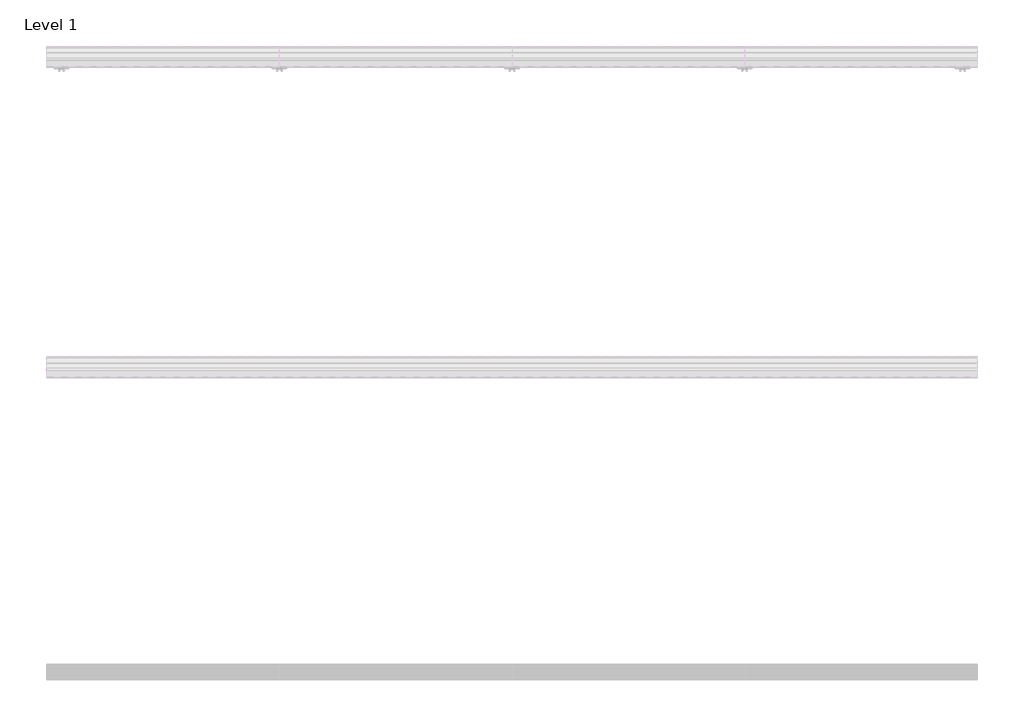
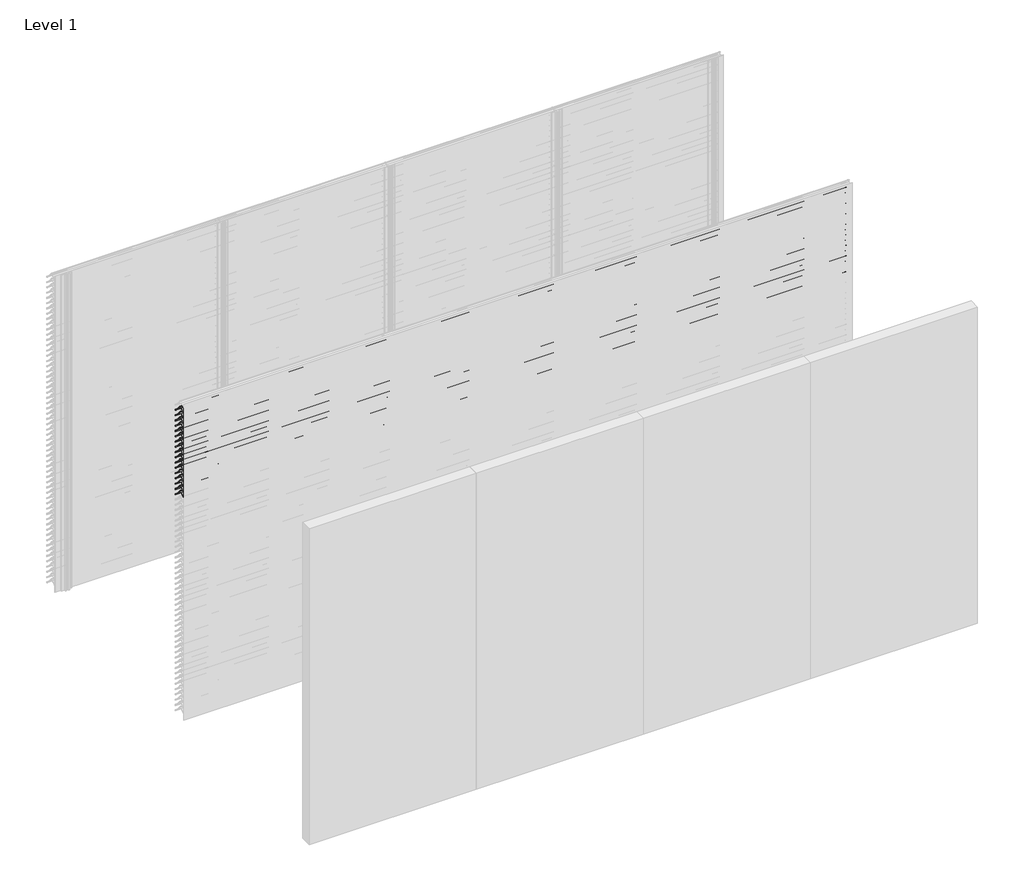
# One storey, part 3 of 173: 17 proxies.
"""IFC4 building model written with IfcOpenShell, lengths in millimetres."""

from ifc_helpers import new_model, si_unit, point, frame, frame_2d, origin, place, context, project, spatial, polyline, circle_curve, trimmed, segment, composite_curve, outline, extrude, element, save

model = new_model("IFC4")

# Units and contexts
model_context = context("Model", 3, world=origin())
ifc_project = project(units=[si_unit("LENGTHUNIT", "METRE", prefix="MILLI")], contexts=[model_context])

# Site, building, storey
site = spatial("IfcSite", under=ifc_project)
building = spatial("IfcBuilding", under=site)
storey = spatial("IfcBuildingStorey", under=building, Name="Level 1", Elevation=0.0)

# Proxies
placement = place(None, origin())
element("IfcBuildingElementProxy", 1, Name="Wall Sweeps", at=placement, inside=storey, context=model_context, shape_type="SweptSolid", body=[
    extrude(outline(composite_curve([segment(polyline([(-55998.0, 2909.1474905), (-55998.0, 2911.6227417)]), True, "CONTINUOUS"), segment(trimmed(circle_curve(frame_2d((-55951.2682172, 2866.2200208)), 65.1557103), [point((-55998.0, 2911.6227417))], [point((-55954.4014323, 2931.3003524))], False, "CARTESIAN"), True, "CONTINUOUS"), segment(polyline([(-55954.4014323, 2931.3003524), (-55934.8315836, 2931.3003524)]), True, "CONTINUOUS"), segment(trimmed(circle_curve(frame_2d((-55732.7329489, 3078.5533172)), 250.0545817), [point((-55934.8315836, 2931.3003524))], [point((-55941.4452143, 2940.8344583))], False, "CARTESIAN"), True, "CONTINUOUS"), segment(trimmed(circle_curve(frame_2d((-55953.2981792, 2935.1737835)), 13.1352966), [point((-55941.4452143, 2940.8344583))], [point((-55953.8171475, 2948.298824))], True, "CARTESIAN"), True, "CONTINUOUS"), segment(polyline([(-55953.8171475, 2948.298824), (-55953.8171475, 2950.0)]), True, "CONTINUOUS"), segment(trimmed(circle_curve(frame_2d((-55953.2981792, 2935.1737835)), 14.8352966), [point((-55953.8171475, 2950.0))], [point((-55939.9637661, 2941.6760487))], False, "CARTESIAN"), True, "CONTINUOUS"), segment(trimmed(circle_curve(frame_2d((-55732.7329489, 3078.5533172)), 248.3545817), [point((-55939.9637661, 2941.6760487))], [point((-55873.8787895, 2874.2059416))], True, "CARTESIAN"), True, "CONTINUOUS"), segment(trimmed(circle_curve(frame_2d((-55883.8147537, 2861.6649442)), 16.0), [point((-55873.8787895, 2874.2059416))], [point((-55867.8648347, 2860.4))], False, "CARTESIAN"), True, "CONTINUOUS"), segment(polyline([(-55867.8648347, 2860.4), (-55869.6712069, 2860.4)]), True, "CONTINUOUS"), segment(trimmed(circle_curve(frame_2d((-55883.8147537, 2861.6649442)), 14.2), [point((-55869.6712069, 2860.4))], [point((-55874.9518628, 2872.7594998))], True, "CARTESIAN"), True, "CONTINUOUS"), segment(trimmed(circle_curve(frame_2d((-55732.7329489, 3078.5533172)), 250.1545817), [point((-55874.9518628, 2872.7594998))], [point((-55933.7064024, 2929.6003524))], False, "CARTESIAN"), True, "CONTINUOUS"), segment(polyline([(-55933.7064024, 2929.6003524), (-55954.3602632, 2929.6003524)]), True, "CONTINUOUS"), segment(trimmed(circle_curve(frame_2d((-55951.2682172, 2866.2200208)), 63.4557103), [point((-55954.3602632, 2929.6003524))], [point((-55998.0, 2909.1474905))], True, "CARTESIAN"), True, "CONTINUOUS")], self_intersect=False)), frame((0.0, 0.0, 0.0), z_axis=(1.0, 0.0, 0.0), x_axis=(0.0, 1.0, 0.0)), (0.0, 0.0, 1.0), 6000.0),
])
element("IfcBuildingElementProxy", 2, Name="Wall Sweeps", at=placement, inside=storey, context=model_context, shape_type="SweptSolid", body=[
    extrude(outline(composite_curve([segment(polyline([(-55998.0, 2859.1474905), (-55998.0, 2861.6227417)]), True, "CONTINUOUS"), segment(trimmed(circle_curve(frame_2d((-55951.2682172, 2816.2200208)), 65.1557103), [point((-55998.0, 2861.6227417))], [point((-55954.4014323, 2881.3003524))], False, "CARTESIAN"), True, "CONTINUOUS"), segment(polyline([(-55954.4014323, 2881.3003524), (-55934.8315836, 2881.3003524)]), True, "CONTINUOUS"), segment(trimmed(circle_curve(frame_2d((-55732.7329489, 3028.5533172)), 250.0545817), [point((-55934.8315836, 2881.3003524))], [point((-55941.4452143, 2890.8344583))], False, "CARTESIAN"), True, "CONTINUOUS"), segment(trimmed(circle_curve(frame_2d((-55953.2981792, 2885.1737835)), 13.1352966), [point((-55941.4452143, 2890.8344583))], [point((-55953.8171475, 2898.298824))], True, "CARTESIAN"), True, "CONTINUOUS"), segment(polyline([(-55953.8171475, 2898.298824), (-55953.8171475, 2900.0)]), True, "CONTINUOUS"), segment(trimmed(circle_curve(frame_2d((-55953.2981792, 2885.1737835)), 14.8352966), [point((-55953.8171475, 2900.0))], [point((-55939.9637661, 2891.6760487))], False, "CARTESIAN"), True, "CONTINUOUS"), segment(trimmed(circle_curve(frame_2d((-55732.7329489, 3028.5533172)), 248.3545817), [point((-55939.9637661, 2891.6760487))], [point((-55873.8787895, 2824.2059416))], True, "CARTESIAN"), True, "CONTINUOUS"), segment(trimmed(circle_curve(frame_2d((-55883.8147537, 2811.6649442)), 16.0), [point((-55873.8787895, 2824.2059416))], [point((-55867.8648347, 2810.4))], False, "CARTESIAN"), True, "CONTINUOUS"), segment(polyline([(-55867.8648347, 2810.4), (-55869.6712069, 2810.4)]), True, "CONTINUOUS"), segment(trimmed(circle_curve(frame_2d((-55883.8147537, 2811.6649442)), 14.2), [point((-55869.6712069, 2810.4))], [point((-55874.9518628, 2822.7594998))], True, "CARTESIAN"), True, "CONTINUOUS"), segment(trimmed(circle_curve(frame_2d((-55732.7329489, 3028.5533172)), 250.1545817), [point((-55874.9518628, 2822.7594998))], [point((-55933.7064024, 2879.6003524))], False, "CARTESIAN"), True, "CONTINUOUS"), segment(polyline([(-55933.7064024, 2879.6003524), (-55954.3602632, 2879.6003524)]), True, "CONTINUOUS"), segment(trimmed(circle_curve(frame_2d((-55951.2682172, 2816.2200208)), 63.4557103), [point((-55954.3602632, 2879.6003524))], [point((-55998.0, 2859.1474905))], True, "CARTESIAN"), True, "CONTINUOUS")], self_intersect=False)), frame((0.0, 0.0, 0.0), z_axis=(1.0, 0.0, 0.0), x_axis=(0.0, 1.0, 0.0)), (0.0, 0.0, 1.0), 6000.0),
])
element("IfcBuildingElementProxy", 3, Name="Wall Sweeps", at=placement, inside=storey, context=model_context, shape_type="SweptSolid", body=[
    extrude(outline(composite_curve([segment(polyline([(-55998.0, 2809.1474905), (-55998.0, 2811.6227417)]), True, "CONTINUOUS"), segment(trimmed(circle_curve(frame_2d((-55951.2682172, 2766.2200208)), 65.1557103), [point((-55998.0, 2811.6227417))], [point((-55954.4014323, 2831.3003524))], False, "CARTESIAN"), True, "CONTINUOUS"), segment(polyline([(-55954.4014323, 2831.3003524), (-55934.8315836, 2831.3003524)]), True, "CONTINUOUS"), segment(trimmed(circle_curve(frame_2d((-55732.7329489, 2978.5533172)), 250.0545817), [point((-55934.8315836, 2831.3003524))], [point((-55941.4452143, 2840.8344583))], False, "CARTESIAN"), True, "CONTINUOUS"), segment(trimmed(circle_curve(frame_2d((-55953.2981792, 2835.1737835)), 13.1352966), [point((-55941.4452143, 2840.8344583))], [point((-55953.8171475, 2848.298824))], True, "CARTESIAN"), True, "CONTINUOUS"), segment(polyline([(-55953.8171475, 2848.298824), (-55953.8171475, 2850.0)]), True, "CONTINUOUS"), segment(trimmed(circle_curve(frame_2d((-55953.2981792, 2835.1737835)), 14.8352966), [point((-55953.8171475, 2850.0))], [point((-55939.9637661, 2841.6760487))], False, "CARTESIAN"), True, "CONTINUOUS"), segment(trimmed(circle_curve(frame_2d((-55732.7329489, 2978.5533172)), 248.3545817), [point((-55939.9637661, 2841.6760487))], [point((-55873.8787895, 2774.2059416))], True, "CARTESIAN"), True, "CONTINUOUS"), segment(trimmed(circle_curve(frame_2d((-55883.8147537, 2761.6649442)), 16.0), [point((-55873.8787895, 2774.2059416))], [point((-55867.8648347, 2760.4))], False, "CARTESIAN"), True, "CONTINUOUS"), segment(polyline([(-55867.8648347, 2760.4), (-55869.6712069, 2760.4)]), True, "CONTINUOUS"), segment(trimmed(circle_curve(frame_2d((-55883.8147537, 2761.6649442)), 14.2), [point((-55869.6712069, 2760.4))], [point((-55874.9518628, 2772.7594998))], True, "CARTESIAN"), True, "CONTINUOUS"), segment(trimmed(circle_curve(frame_2d((-55732.7329489, 2978.5533172)), 250.1545817), [point((-55874.9518628, 2772.7594998))], [point((-55933.7064024, 2829.6003524))], False, "CARTESIAN"), True, "CONTINUOUS"), segment(polyline([(-55933.7064024, 2829.6003524), (-55954.3602632, 2829.6003524)]), True, "CONTINUOUS"), segment(trimmed(circle_curve(frame_2d((-55951.2682172, 2766.2200208)), 63.4557103), [point((-55954.3602632, 2829.6003524))], [point((-55998.0, 2809.1474905))], True, "CARTESIAN"), True, "CONTINUOUS")], self_intersect=False)), frame((0.0, 0.0, 0.0), z_axis=(1.0, 0.0, 0.0), x_axis=(0.0, 1.0, 0.0)), (0.0, 0.0, 1.0), 6000.0),
])
element("IfcBuildingElementProxy", 4, Name="Wall Sweeps", at=placement, inside=storey, context=model_context, shape_type="SweptSolid", body=[
    extrude(outline(composite_curve([segment(polyline([(-55998.0, 2759.1474905), (-55998.0, 2761.6227417)]), True, "CONTINUOUS"), segment(trimmed(circle_curve(frame_2d((-55951.2682172, 2716.2200208)), 65.1557103), [point((-55998.0, 2761.6227417))], [point((-55954.4014323, 2781.3003524))], False, "CARTESIAN"), True, "CONTINUOUS"), segment(polyline([(-55954.4014323, 2781.3003524), (-55934.8315836, 2781.3003524)]), True, "CONTINUOUS"), segment(trimmed(circle_curve(frame_2d((-55732.7329489, 2928.5533172)), 250.0545817), [point((-55934.8315836, 2781.3003524))], [point((-55941.4452143, 2790.8344583))], False, "CARTESIAN"), True, "CONTINUOUS"), segment(trimmed(circle_curve(frame_2d((-55953.2981792, 2785.1737835)), 13.1352966), [point((-55941.4452143, 2790.8344583))], [point((-55953.8171475, 2798.298824))], True, "CARTESIAN"), True, "CONTINUOUS"), segment(polyline([(-55953.8171475, 2798.298824), (-55953.8171475, 2800.0)]), True, "CONTINUOUS"), segment(trimmed(circle_curve(frame_2d((-55953.2981792, 2785.1737835)), 14.8352966), [point((-55953.8171475, 2800.0))], [point((-55939.9637661, 2791.6760487))], False, "CARTESIAN"), True, "CONTINUOUS"), segment(trimmed(circle_curve(frame_2d((-55732.7329489, 2928.5533172)), 248.3545817), [point((-55939.9637661, 2791.6760487))], [point((-55873.8787895, 2724.2059416))], True, "CARTESIAN"), True, "CONTINUOUS"), segment(trimmed(circle_curve(frame_2d((-55883.8147537, 2711.6649442)), 16.0), [point((-55873.8787895, 2724.2059416))], [point((-55867.8648347, 2710.4))], False, "CARTESIAN"), True, "CONTINUOUS"), segment(polyline([(-55867.8648347, 2710.4), (-55869.6712069, 2710.4)]), True, "CONTINUOUS"), segment(trimmed(circle_curve(frame_2d((-55883.8147537, 2711.6649442)), 14.2), [point((-55869.6712069, 2710.4))], [point((-55874.9518628, 2722.7594998))], True, "CARTESIAN"), True, "CONTINUOUS"), segment(trimmed(circle_curve(frame_2d((-55732.7329489, 2928.5533172)), 250.1545817), [point((-55874.9518628, 2722.7594998))], [point((-55933.7064024, 2779.6003524))], False, "CARTESIAN"), True, "CONTINUOUS"), segment(polyline([(-55933.7064024, 2779.6003524), (-55954.3602632, 2779.6003524)]), True, "CONTINUOUS"), segment(trimmed(circle_curve(frame_2d((-55951.2682172, 2716.2200208)), 63.4557103), [point((-55954.3602632, 2779.6003524))], [point((-55998.0, 2759.1474905))], True, "CARTESIAN"), True, "CONTINUOUS")], self_intersect=False)), frame((0.0, 0.0, 0.0), z_axis=(1.0, 0.0, 0.0), x_axis=(0.0, 1.0, 0.0)), (0.0, 0.0, 1.0), 6000.0),
])
element("IfcBuildingElementProxy", 5, Name="Wall Sweeps", at=placement, inside=storey, context=model_context, shape_type="SweptSolid", body=[
    extrude(outline(composite_curve([segment(polyline([(-55998.0, 2709.1474905), (-55998.0, 2711.6227417)]), True, "CONTINUOUS"), segment(trimmed(circle_curve(frame_2d((-55951.2682172, 2666.2200208)), 65.1557103), [point((-55998.0, 2711.6227417))], [point((-55954.4014323, 2731.3003524))], False, "CARTESIAN"), True, "CONTINUOUS"), segment(polyline([(-55954.4014323, 2731.3003524), (-55934.8315836, 2731.3003524)]), True, "CONTINUOUS"), segment(trimmed(circle_curve(frame_2d((-55732.7329489, 2878.5533172)), 250.0545817), [point((-55934.8315836, 2731.3003524))], [point((-55941.4452143, 2740.8344583))], False, "CARTESIAN"), True, "CONTINUOUS"), segment(trimmed(circle_curve(frame_2d((-55953.2981792, 2735.1737835)), 13.1352966), [point((-55941.4452143, 2740.8344583))], [point((-55953.8171475, 2748.298824))], True, "CARTESIAN"), True, "CONTINUOUS"), segment(polyline([(-55953.8171475, 2748.298824), (-55953.8171475, 2750.0)]), True, "CONTINUOUS"), segment(trimmed(circle_curve(frame_2d((-55953.2981792, 2735.1737835)), 14.8352966), [point((-55953.8171475, 2750.0))], [point((-55939.9637661, 2741.6760487))], False, "CARTESIAN"), True, "CONTINUOUS"), segment(trimmed(circle_curve(frame_2d((-55732.7329489, 2878.5533172)), 248.3545817), [point((-55939.9637661, 2741.6760487))], [point((-55873.8787895, 2674.2059416))], True, "CARTESIAN"), True, "CONTINUOUS"), segment(trimmed(circle_curve(frame_2d((-55883.8147537, 2661.6649442)), 16.0), [point((-55873.8787895, 2674.2059416))], [point((-55867.8648347, 2660.4))], False, "CARTESIAN"), True, "CONTINUOUS"), segment(polyline([(-55867.8648347, 2660.4), (-55869.6712069, 2660.4)]), True, "CONTINUOUS"), segment(trimmed(circle_curve(frame_2d((-55883.8147537, 2661.6649442)), 14.2), [point((-55869.6712069, 2660.4))], [point((-55874.9518628, 2672.7594998))], True, "CARTESIAN"), True, "CONTINUOUS"), segment(trimmed(circle_curve(frame_2d((-55732.7329489, 2878.5533172)), 250.1545817), [point((-55874.9518628, 2672.7594998))], [point((-55933.7064024, 2729.6003524))], False, "CARTESIAN"), True, "CONTINUOUS"), segment(polyline([(-55933.7064024, 2729.6003524), (-55954.3602632, 2729.6003524)]), True, "CONTINUOUS"), segment(trimmed(circle_curve(frame_2d((-55951.2682172, 2666.2200208)), 63.4557103), [point((-55954.3602632, 2729.6003524))], [point((-55998.0, 2709.1474905))], True, "CARTESIAN"), True, "CONTINUOUS")], self_intersect=False)), frame((0.0, 0.0, 0.0), z_axis=(1.0, 0.0, 0.0), x_axis=(0.0, 1.0, 0.0)), (0.0, 0.0, 1.0), 6000.0),
])
element("IfcBuildingElementProxy", 6, Name="Wall Sweeps", at=placement, inside=storey, context=model_context, shape_type="SweptSolid", body=[
    extrude(outline(composite_curve([segment(polyline([(-55998.0, 2659.1474905), (-55998.0, 2661.6227417)]), True, "CONTINUOUS"), segment(trimmed(circle_curve(frame_2d((-55951.2682172, 2616.2200208)), 65.1557103), [point((-55998.0, 2661.6227417))], [point((-55954.4014323, 2681.3003524))], False, "CARTESIAN"), True, "CONTINUOUS"), segment(polyline([(-55954.4014323, 2681.3003524), (-55934.8315836, 2681.3003524)]), True, "CONTINUOUS"), segment(trimmed(circle_curve(frame_2d((-55732.7329489, 2828.5533172)), 250.0545817), [point((-55934.8315836, 2681.3003524))], [point((-55941.4452143, 2690.8344583))], False, "CARTESIAN"), True, "CONTINUOUS"), segment(trimmed(circle_curve(frame_2d((-55953.2981792, 2685.1737835)), 13.1352966), [point((-55941.4452143, 2690.8344583))], [point((-55953.8171475, 2698.298824))], True, "CARTESIAN"), True, "CONTINUOUS"), segment(polyline([(-55953.8171475, 2698.298824), (-55953.8171475, 2700.0)]), True, "CONTINUOUS"), segment(trimmed(circle_curve(frame_2d((-55953.2981792, 2685.1737835)), 14.8352966), [point((-55953.8171475, 2700.0))], [point((-55939.9637661, 2691.6760487))], False, "CARTESIAN"), True, "CONTINUOUS"), segment(trimmed(circle_curve(frame_2d((-55732.7329489, 2828.5533172)), 248.3545817), [point((-55939.9637661, 2691.6760487))], [point((-55873.8787895, 2624.2059416))], True, "CARTESIAN"), True, "CONTINUOUS"), segment(trimmed(circle_curve(frame_2d((-55883.8147537, 2611.6649442)), 16.0), [point((-55873.8787895, 2624.2059416))], [point((-55867.8648347, 2610.4))], False, "CARTESIAN"), True, "CONTINUOUS"), segment(polyline([(-55867.8648347, 2610.4), (-55869.6712069, 2610.4)]), True, "CONTINUOUS"), segment(trimmed(circle_curve(frame_2d((-55883.8147537, 2611.6649442)), 14.2), [point((-55869.6712069, 2610.4))], [point((-55874.9518628, 2622.7594998))], True, "CARTESIAN"), True, "CONTINUOUS"), segment(trimmed(circle_curve(frame_2d((-55732.7329489, 2828.5533172)), 250.1545817), [point((-55874.9518628, 2622.7594998))], [point((-55933.7064024, 2679.6003524))], False, "CARTESIAN"), True, "CONTINUOUS"), segment(polyline([(-55933.7064024, 2679.6003524), (-55954.3602632, 2679.6003524)]), True, "CONTINUOUS"), segment(trimmed(circle_curve(frame_2d((-55951.2682172, 2616.2200208)), 63.4557103), [point((-55954.3602632, 2679.6003524))], [point((-55998.0, 2659.1474905))], True, "CARTESIAN"), True, "CONTINUOUS")], self_intersect=False)), frame((0.0, 0.0, 0.0), z_axis=(1.0, 0.0, 0.0), x_axis=(0.0, 1.0, 0.0)), (0.0, 0.0, 1.0), 6000.0),
])
element("IfcBuildingElementProxy", 7, Name="Wall Sweeps", at=placement, inside=storey, context=model_context, shape_type="SweptSolid", body=[
    extrude(outline(composite_curve([segment(polyline([(-55998.0, 2609.1474905), (-55998.0, 2611.6227417)]), True, "CONTINUOUS"), segment(trimmed(circle_curve(frame_2d((-55951.2682172, 2566.2200208)), 65.1557103), [point((-55998.0, 2611.6227417))], [point((-55954.4014323, 2631.3003524))], False, "CARTESIAN"), True, "CONTINUOUS"), segment(polyline([(-55954.4014323, 2631.3003524), (-55934.8315836, 2631.3003524)]), True, "CONTINUOUS"), segment(trimmed(circle_curve(frame_2d((-55732.7329489, 2778.5533172)), 250.0545817), [point((-55934.8315836, 2631.3003524))], [point((-55941.4452143, 2640.8344583))], False, "CARTESIAN"), True, "CONTINUOUS"), segment(trimmed(circle_curve(frame_2d((-55953.2981792, 2635.1737835)), 13.1352966), [point((-55941.4452143, 2640.8344583))], [point((-55953.8171475, 2648.298824))], True, "CARTESIAN"), True, "CONTINUOUS"), segment(polyline([(-55953.8171475, 2648.298824), (-55953.8171475, 2650.0)]), True, "CONTINUOUS"), segment(trimmed(circle_curve(frame_2d((-55953.2981792, 2635.1737835)), 14.8352966), [point((-55953.8171475, 2650.0))], [point((-55939.9637661, 2641.6760487))], False, "CARTESIAN"), True, "CONTINUOUS"), segment(trimmed(circle_curve(frame_2d((-55732.7329489, 2778.5533172)), 248.3545817), [point((-55939.9637661, 2641.6760487))], [point((-55873.8787895, 2574.2059416))], True, "CARTESIAN"), True, "CONTINUOUS"), segment(trimmed(circle_curve(frame_2d((-55883.8147537, 2561.6649442)), 16.0), [point((-55873.8787895, 2574.2059416))], [point((-55867.8648347, 2560.4))], False, "CARTESIAN"), True, "CONTINUOUS"), segment(polyline([(-55867.8648347, 2560.4), (-55869.6712069, 2560.4)]), True, "CONTINUOUS"), segment(trimmed(circle_curve(frame_2d((-55883.8147537, 2561.6649442)), 14.2), [point((-55869.6712069, 2560.4))], [point((-55874.9518628, 2572.7594998))], True, "CARTESIAN"), True, "CONTINUOUS"), segment(trimmed(circle_curve(frame_2d((-55732.7329489, 2778.5533172)), 250.1545817), [point((-55874.9518628, 2572.7594998))], [point((-55933.7064024, 2629.6003524))], False, "CARTESIAN"), True, "CONTINUOUS"), segment(polyline([(-55933.7064024, 2629.6003524), (-55954.3602632, 2629.6003524)]), True, "CONTINUOUS"), segment(trimmed(circle_curve(frame_2d((-55951.2682172, 2566.2200208)), 63.4557103), [point((-55954.3602632, 2629.6003524))], [point((-55998.0, 2609.1474905))], True, "CARTESIAN"), True, "CONTINUOUS")], self_intersect=False)), frame((0.0, 0.0, 0.0), z_axis=(1.0, 0.0, 0.0), x_axis=(0.0, 1.0, 0.0)), (0.0, 0.0, 1.0), 6000.0),
])
element("IfcBuildingElementProxy", 8, Name="Wall Sweeps", at=placement, inside=storey, context=model_context, shape_type="SweptSolid", body=[
    extrude(outline(composite_curve([segment(polyline([(-55998.0, 2559.1474905), (-55998.0, 2561.6227417)]), True, "CONTINUOUS"), segment(trimmed(circle_curve(frame_2d((-55951.2682172, 2516.2200208)), 65.1557103), [point((-55998.0, 2561.6227417))], [point((-55954.4014323, 2581.3003524))], False, "CARTESIAN"), True, "CONTINUOUS"), segment(polyline([(-55954.4014323, 2581.3003524), (-55934.8315836, 2581.3003524)]), True, "CONTINUOUS"), segment(trimmed(circle_curve(frame_2d((-55732.7329489, 2728.5533172)), 250.0545817), [point((-55934.8315836, 2581.3003524))], [point((-55941.4452143, 2590.8344583))], False, "CARTESIAN"), True, "CONTINUOUS"), segment(trimmed(circle_curve(frame_2d((-55953.2981792, 2585.1737835)), 13.1352966), [point((-55941.4452143, 2590.8344583))], [point((-55953.8171475, 2598.298824))], True, "CARTESIAN"), True, "CONTINUOUS"), segment(polyline([(-55953.8171475, 2598.298824), (-55953.8171475, 2600.0)]), True, "CONTINUOUS"), segment(trimmed(circle_curve(frame_2d((-55953.2981792, 2585.1737835)), 14.8352966), [point((-55953.8171475, 2600.0))], [point((-55939.9637661, 2591.6760487))], False, "CARTESIAN"), True, "CONTINUOUS"), segment(trimmed(circle_curve(frame_2d((-55732.7329489, 2728.5533172)), 248.3545817), [point((-55939.9637661, 2591.6760487))], [point((-55873.8787895, 2524.2059416))], True, "CARTESIAN"), True, "CONTINUOUS"), segment(trimmed(circle_curve(frame_2d((-55883.8147537, 2511.6649442)), 16.0), [point((-55873.8787895, 2524.2059416))], [point((-55867.8648347, 2510.4))], False, "CARTESIAN"), True, "CONTINUOUS"), segment(polyline([(-55867.8648347, 2510.4), (-55869.6712069, 2510.4)]), True, "CONTINUOUS"), segment(trimmed(circle_curve(frame_2d((-55883.8147537, 2511.6649442)), 14.2), [point((-55869.6712069, 2510.4))], [point((-55874.9518628, 2522.7594998))], True, "CARTESIAN"), True, "CONTINUOUS"), segment(trimmed(circle_curve(frame_2d((-55732.7329489, 2728.5533172)), 250.1545817), [point((-55874.9518628, 2522.7594998))], [point((-55933.7064024, 2579.6003524))], False, "CARTESIAN"), True, "CONTINUOUS"), segment(polyline([(-55933.7064024, 2579.6003524), (-55954.3602632, 2579.6003524)]), True, "CONTINUOUS"), segment(trimmed(circle_curve(frame_2d((-55951.2682172, 2516.2200208)), 63.4557103), [point((-55954.3602632, 2579.6003524))], [point((-55998.0, 2559.1474905))], True, "CARTESIAN"), True, "CONTINUOUS")], self_intersect=False)), frame((0.0, 0.0, 0.0), z_axis=(1.0, 0.0, 0.0), x_axis=(0.0, 1.0, 0.0)), (0.0, 0.0, 1.0), 6000.0),
])
element("IfcBuildingElementProxy", 9, Name="Wall Sweeps", at=placement, inside=storey, context=model_context, shape_type="SweptSolid", body=[
    extrude(outline(composite_curve([segment(polyline([(-55998.0, 2509.1474905), (-55998.0, 2511.6227417)]), True, "CONTINUOUS"), segment(trimmed(circle_curve(frame_2d((-55951.2682172, 2466.2200208)), 65.1557103), [point((-55998.0, 2511.6227417))], [point((-55954.4014323, 2531.3003524))], False, "CARTESIAN"), True, "CONTINUOUS"), segment(polyline([(-55954.4014323, 2531.3003524), (-55934.8315836, 2531.3003524)]), True, "CONTINUOUS"), segment(trimmed(circle_curve(frame_2d((-55732.7329489, 2678.5533172)), 250.0545817), [point((-55934.8315836, 2531.3003524))], [point((-55941.4452143, 2540.8344583))], False, "CARTESIAN"), True, "CONTINUOUS"), segment(trimmed(circle_curve(frame_2d((-55953.2981792, 2535.1737835)), 13.1352966), [point((-55941.4452143, 2540.8344583))], [point((-55953.8171475, 2548.298824))], True, "CARTESIAN"), True, "CONTINUOUS"), segment(polyline([(-55953.8171475, 2548.298824), (-55953.8171475, 2550.0)]), True, "CONTINUOUS"), segment(trimmed(circle_curve(frame_2d((-55953.2981792, 2535.1737835)), 14.8352966), [point((-55953.8171475, 2550.0))], [point((-55939.9637661, 2541.6760487))], False, "CARTESIAN"), True, "CONTINUOUS"), segment(trimmed(circle_curve(frame_2d((-55732.7329489, 2678.5533172)), 248.3545817), [point((-55939.9637661, 2541.6760487))], [point((-55873.8787895, 2474.2059416))], True, "CARTESIAN"), True, "CONTINUOUS"), segment(trimmed(circle_curve(frame_2d((-55883.8147537, 2461.6649442)), 16.0), [point((-55873.8787895, 2474.2059416))], [point((-55867.8648347, 2460.4))], False, "CARTESIAN"), True, "CONTINUOUS"), segment(polyline([(-55867.8648347, 2460.4), (-55869.6712069, 2460.4)]), True, "CONTINUOUS"), segment(trimmed(circle_curve(frame_2d((-55883.8147537, 2461.6649442)), 14.2), [point((-55869.6712069, 2460.4))], [point((-55874.9518628, 2472.7594998))], True, "CARTESIAN"), True, "CONTINUOUS"), segment(trimmed(circle_curve(frame_2d((-55732.7329489, 2678.5533172)), 250.1545817), [point((-55874.9518628, 2472.7594998))], [point((-55933.7064024, 2529.6003524))], False, "CARTESIAN"), True, "CONTINUOUS"), segment(polyline([(-55933.7064024, 2529.6003524), (-55954.3602632, 2529.6003524)]), True, "CONTINUOUS"), segment(trimmed(circle_curve(frame_2d((-55951.2682172, 2466.2200208)), 63.4557103), [point((-55954.3602632, 2529.6003524))], [point((-55998.0, 2509.1474905))], True, "CARTESIAN"), True, "CONTINUOUS")], self_intersect=False)), frame((0.0, 0.0, 0.0), z_axis=(1.0, 0.0, 0.0), x_axis=(0.0, 1.0, 0.0)), (0.0, 0.0, 1.0), 6000.0),
])
element("IfcBuildingElementProxy", 10, Name="Wall Sweeps", at=placement, inside=storey, context=model_context, shape_type="SweptSolid", body=[
    extrude(outline(composite_curve([segment(polyline([(-55998.0, 2459.1474905), (-55998.0, 2461.6227417)]), True, "CONTINUOUS"), segment(trimmed(circle_curve(frame_2d((-55951.2682172, 2416.2200208)), 65.1557103), [point((-55998.0, 2461.6227417))], [point((-55954.4014323, 2481.3003524))], False, "CARTESIAN"), True, "CONTINUOUS"), segment(polyline([(-55954.4014323, 2481.3003524), (-55934.8315836, 2481.3003524)]), True, "CONTINUOUS"), segment(trimmed(circle_curve(frame_2d((-55732.7329489, 2628.5533172)), 250.0545817), [point((-55934.8315836, 2481.3003524))], [point((-55941.4452143, 2490.8344583))], False, "CARTESIAN"), True, "CONTINUOUS"), segment(trimmed(circle_curve(frame_2d((-55953.2981792, 2485.1737835)), 13.1352966), [point((-55941.4452143, 2490.8344583))], [point((-55953.8171475, 2498.298824))], True, "CARTESIAN"), True, "CONTINUOUS"), segment(polyline([(-55953.8171475, 2498.298824), (-55953.8171475, 2500.0)]), True, "CONTINUOUS"), segment(trimmed(circle_curve(frame_2d((-55953.2981792, 2485.1737835)), 14.8352966), [point((-55953.8171475, 2500.0))], [point((-55939.9637661, 2491.6760487))], False, "CARTESIAN"), True, "CONTINUOUS"), segment(trimmed(circle_curve(frame_2d((-55732.7329489, 2628.5533172)), 248.3545817), [point((-55939.9637661, 2491.6760487))], [point((-55873.8787895, 2424.2059416))], True, "CARTESIAN"), True, "CONTINUOUS"), segment(trimmed(circle_curve(frame_2d((-55883.8147537, 2411.6649442)), 16.0), [point((-55873.8787895, 2424.2059416))], [point((-55867.8648347, 2410.4))], False, "CARTESIAN"), True, "CONTINUOUS"), segment(polyline([(-55867.8648347, 2410.4), (-55869.6712069, 2410.4)]), True, "CONTINUOUS"), segment(trimmed(circle_curve(frame_2d((-55883.8147537, 2411.6649442)), 14.2), [point((-55869.6712069, 2410.4))], [point((-55874.9518628, 2422.7594998))], True, "CARTESIAN"), True, "CONTINUOUS"), segment(trimmed(circle_curve(frame_2d((-55732.7329489, 2628.5533172)), 250.1545817), [point((-55874.9518628, 2422.7594998))], [point((-55933.7064024, 2479.6003524))], False, "CARTESIAN"), True, "CONTINUOUS"), segment(polyline([(-55933.7064024, 2479.6003524), (-55954.3602632, 2479.6003524)]), True, "CONTINUOUS"), segment(trimmed(circle_curve(frame_2d((-55951.2682172, 2416.2200208)), 63.4557103), [point((-55954.3602632, 2479.6003524))], [point((-55998.0, 2459.1474905))], True, "CARTESIAN"), True, "CONTINUOUS")], self_intersect=False)), frame((0.0, 0.0, 0.0), z_axis=(1.0, 0.0, 0.0), x_axis=(0.0, 1.0, 0.0)), (0.0, 0.0, 1.0), 6000.0),
])
element("IfcBuildingElementProxy", 11, Name="Wall Sweeps", at=placement, inside=storey, context=model_context, shape_type="SweptSolid", body=[
    extrude(outline(composite_curve([segment(polyline([(-55998.0, 2409.1474905), (-55998.0, 2411.6227417)]), True, "CONTINUOUS"), segment(trimmed(circle_curve(frame_2d((-55951.2682172, 2366.2200208)), 65.1557103), [point((-55998.0, 2411.6227417))], [point((-55954.4014323, 2431.3003524))], False, "CARTESIAN"), True, "CONTINUOUS"), segment(polyline([(-55954.4014323, 2431.3003524), (-55934.8315836, 2431.3003524)]), True, "CONTINUOUS"), segment(trimmed(circle_curve(frame_2d((-55732.7329489, 2578.5533172)), 250.0545817), [point((-55934.8315836, 2431.3003524))], [point((-55941.4452143, 2440.8344583))], False, "CARTESIAN"), True, "CONTINUOUS"), segment(trimmed(circle_curve(frame_2d((-55953.2981792, 2435.1737835)), 13.1352966), [point((-55941.4452143, 2440.8344583))], [point((-55953.8171475, 2448.298824))], True, "CARTESIAN"), True, "CONTINUOUS"), segment(polyline([(-55953.8171475, 2448.298824), (-55953.8171475, 2450.0)]), True, "CONTINUOUS"), segment(trimmed(circle_curve(frame_2d((-55953.2981792, 2435.1737835)), 14.8352966), [point((-55953.8171475, 2450.0))], [point((-55939.9637661, 2441.6760487))], False, "CARTESIAN"), True, "CONTINUOUS"), segment(trimmed(circle_curve(frame_2d((-55732.7329489, 2578.5533172)), 248.3545817), [point((-55939.9637661, 2441.6760487))], [point((-55873.8787895, 2374.2059416))], True, "CARTESIAN"), True, "CONTINUOUS"), segment(trimmed(circle_curve(frame_2d((-55883.8147537, 2361.6649442)), 16.0), [point((-55873.8787895, 2374.2059416))], [point((-55867.8648347, 2360.4))], False, "CARTESIAN"), True, "CONTINUOUS"), segment(polyline([(-55867.8648347, 2360.4), (-55869.6712069, 2360.4)]), True, "CONTINUOUS"), segment(trimmed(circle_curve(frame_2d((-55883.8147537, 2361.6649442)), 14.2), [point((-55869.6712069, 2360.4))], [point((-55874.9518628, 2372.7594998))], True, "CARTESIAN"), True, "CONTINUOUS"), segment(trimmed(circle_curve(frame_2d((-55732.7329489, 2578.5533172)), 250.1545817), [point((-55874.9518628, 2372.7594998))], [point((-55933.7064024, 2429.6003524))], False, "CARTESIAN"), True, "CONTINUOUS"), segment(polyline([(-55933.7064024, 2429.6003524), (-55954.3602632, 2429.6003524)]), True, "CONTINUOUS"), segment(trimmed(circle_curve(frame_2d((-55951.2682172, 2366.2200208)), 63.4557103), [point((-55954.3602632, 2429.6003524))], [point((-55998.0, 2409.1474905))], True, "CARTESIAN"), True, "CONTINUOUS")], self_intersect=False)), frame((0.0, 0.0, 0.0), z_axis=(1.0, 0.0, 0.0), x_axis=(0.0, 1.0, 0.0)), (0.0, 0.0, 1.0), 6000.0),
])
element("IfcBuildingElementProxy", 12, Name="Wall Sweeps", at=placement, inside=storey, context=model_context, shape_type="SweptSolid", body=[
    extrude(outline(composite_curve([segment(polyline([(-55998.0, 2359.1474905), (-55998.0, 2361.6227417)]), True, "CONTINUOUS"), segment(trimmed(circle_curve(frame_2d((-55951.2682172, 2316.2200208)), 65.1557103), [point((-55998.0, 2361.6227417))], [point((-55954.4014323, 2381.3003524))], False, "CARTESIAN"), True, "CONTINUOUS"), segment(polyline([(-55954.4014323, 2381.3003524), (-55934.8315836, 2381.3003524)]), True, "CONTINUOUS"), segment(trimmed(circle_curve(frame_2d((-55732.7329489, 2528.5533172)), 250.0545817), [point((-55934.8315836, 2381.3003524))], [point((-55941.4452143, 2390.8344583))], False, "CARTESIAN"), True, "CONTINUOUS"), segment(trimmed(circle_curve(frame_2d((-55953.2981792, 2385.1737835)), 13.1352966), [point((-55941.4452143, 2390.8344583))], [point((-55953.8171475, 2398.298824))], True, "CARTESIAN"), True, "CONTINUOUS"), segment(polyline([(-55953.8171475, 2398.298824), (-55953.8171475, 2400.0)]), True, "CONTINUOUS"), segment(trimmed(circle_curve(frame_2d((-55953.2981792, 2385.1737835)), 14.8352966), [point((-55953.8171475, 2400.0))], [point((-55939.9637661, 2391.6760487))], False, "CARTESIAN"), True, "CONTINUOUS"), segment(trimmed(circle_curve(frame_2d((-55732.7329489, 2528.5533172)), 248.3545817), [point((-55939.9637661, 2391.6760487))], [point((-55873.8787895, 2324.2059416))], True, "CARTESIAN"), True, "CONTINUOUS"), segment(trimmed(circle_curve(frame_2d((-55883.8147537, 2311.6649442)), 16.0), [point((-55873.8787895, 2324.2059416))], [point((-55867.8648347, 2310.4))], False, "CARTESIAN"), True, "CONTINUOUS"), segment(polyline([(-55867.8648347, 2310.4), (-55869.6712069, 2310.4)]), True, "CONTINUOUS"), segment(trimmed(circle_curve(frame_2d((-55883.8147537, 2311.6649442)), 14.2), [point((-55869.6712069, 2310.4))], [point((-55874.9518628, 2322.7594998))], True, "CARTESIAN"), True, "CONTINUOUS"), segment(trimmed(circle_curve(frame_2d((-55732.7329489, 2528.5533172)), 250.1545817), [point((-55874.9518628, 2322.7594998))], [point((-55933.7064024, 2379.6003524))], False, "CARTESIAN"), True, "CONTINUOUS"), segment(polyline([(-55933.7064024, 2379.6003524), (-55954.3602632, 2379.6003524)]), True, "CONTINUOUS"), segment(trimmed(circle_curve(frame_2d((-55951.2682172, 2316.2200208)), 63.4557103), [point((-55954.3602632, 2379.6003524))], [point((-55998.0, 2359.1474905))], True, "CARTESIAN"), True, "CONTINUOUS")], self_intersect=False)), frame((0.0, 0.0, 0.0), z_axis=(1.0, 0.0, 0.0), x_axis=(0.0, 1.0, 0.0)), (0.0, 0.0, 1.0), 6000.0),
])
element("IfcBuildingElementProxy", 13, Name="Wall Sweeps", at=placement, inside=storey, context=model_context, shape_type="SweptSolid", body=[
    extrude(outline(composite_curve([segment(polyline([(-55998.0, 2309.1474905), (-55998.0, 2311.6227417)]), True, "CONTINUOUS"), segment(trimmed(circle_curve(frame_2d((-55951.2682172, 2266.2200208)), 65.1557103), [point((-55998.0, 2311.6227417))], [point((-55954.4014323, 2331.3003524))], False, "CARTESIAN"), True, "CONTINUOUS"), segment(polyline([(-55954.4014323, 2331.3003524), (-55934.8315836, 2331.3003524)]), True, "CONTINUOUS"), segment(trimmed(circle_curve(frame_2d((-55732.7329489, 2478.5533172)), 250.0545817), [point((-55934.8315836, 2331.3003524))], [point((-55941.4452143, 2340.8344583))], False, "CARTESIAN"), True, "CONTINUOUS"), segment(trimmed(circle_curve(frame_2d((-55953.2981792, 2335.1737835)), 13.1352966), [point((-55941.4452143, 2340.8344583))], [point((-55953.8171475, 2348.298824))], True, "CARTESIAN"), True, "CONTINUOUS"), segment(polyline([(-55953.8171475, 2348.298824), (-55953.8171475, 2350.0)]), True, "CONTINUOUS"), segment(trimmed(circle_curve(frame_2d((-55953.2981792, 2335.1737835)), 14.8352966), [point((-55953.8171475, 2350.0))], [point((-55939.9637661, 2341.6760487))], False, "CARTESIAN"), True, "CONTINUOUS"), segment(trimmed(circle_curve(frame_2d((-55732.7329489, 2478.5533172)), 248.3545817), [point((-55939.9637661, 2341.6760487))], [point((-55873.8787895, 2274.2059416))], True, "CARTESIAN"), True, "CONTINUOUS"), segment(trimmed(circle_curve(frame_2d((-55883.8147537, 2261.6649442)), 16.0), [point((-55873.8787895, 2274.2059416))], [point((-55867.8648347, 2260.4))], False, "CARTESIAN"), True, "CONTINUOUS"), segment(polyline([(-55867.8648347, 2260.4), (-55869.6712069, 2260.4)]), True, "CONTINUOUS"), segment(trimmed(circle_curve(frame_2d((-55883.8147537, 2261.6649442)), 14.2), [point((-55869.6712069, 2260.4))], [point((-55874.9518628, 2272.7594998))], True, "CARTESIAN"), True, "CONTINUOUS"), segment(trimmed(circle_curve(frame_2d((-55732.7329489, 2478.5533172)), 250.1545817), [point((-55874.9518628, 2272.7594998))], [point((-55933.7064024, 2329.6003524))], False, "CARTESIAN"), True, "CONTINUOUS"), segment(polyline([(-55933.7064024, 2329.6003524), (-55954.3602632, 2329.6003524)]), True, "CONTINUOUS"), segment(trimmed(circle_curve(frame_2d((-55951.2682172, 2266.2200208)), 63.4557103), [point((-55954.3602632, 2329.6003524))], [point((-55998.0, 2309.1474905))], True, "CARTESIAN"), True, "CONTINUOUS")], self_intersect=False)), frame((0.0, 0.0, 0.0), z_axis=(1.0, 0.0, 0.0), x_axis=(0.0, 1.0, 0.0)), (0.0, 0.0, 1.0), 6000.0),
])
element("IfcBuildingElementProxy", 14, Name="Wall Sweeps", at=placement, inside=storey, context=model_context, shape_type="SweptSolid", body=[
    extrude(outline(composite_curve([segment(polyline([(-55998.0, 2259.1474905), (-55998.0, 2261.6227417)]), True, "CONTINUOUS"), segment(trimmed(circle_curve(frame_2d((-55951.2682172, 2216.2200208)), 65.1557103), [point((-55998.0, 2261.6227417))], [point((-55954.4014323, 2281.3003524))], False, "CARTESIAN"), True, "CONTINUOUS"), segment(polyline([(-55954.4014323, 2281.3003524), (-55934.8315836, 2281.3003524)]), True, "CONTINUOUS"), segment(trimmed(circle_curve(frame_2d((-55732.7329489, 2428.5533172)), 250.0545817), [point((-55934.8315836, 2281.3003524))], [point((-55941.4452143, 2290.8344583))], False, "CARTESIAN"), True, "CONTINUOUS"), segment(trimmed(circle_curve(frame_2d((-55953.2981792, 2285.1737835)), 13.1352966), [point((-55941.4452143, 2290.8344583))], [point((-55953.8171475, 2298.298824))], True, "CARTESIAN"), True, "CONTINUOUS"), segment(polyline([(-55953.8171475, 2298.298824), (-55953.8171475, 2300.0)]), True, "CONTINUOUS"), segment(trimmed(circle_curve(frame_2d((-55953.2981792, 2285.1737835)), 14.8352966), [point((-55953.8171475, 2300.0))], [point((-55939.9637661, 2291.6760487))], False, "CARTESIAN"), True, "CONTINUOUS"), segment(trimmed(circle_curve(frame_2d((-55732.7329489, 2428.5533172)), 248.3545817), [point((-55939.9637661, 2291.6760487))], [point((-55873.8787895, 2224.2059416))], True, "CARTESIAN"), True, "CONTINUOUS"), segment(trimmed(circle_curve(frame_2d((-55883.8147537, 2211.6649442)), 16.0), [point((-55873.8787895, 2224.2059416))], [point((-55867.8648347, 2210.4))], False, "CARTESIAN"), True, "CONTINUOUS"), segment(polyline([(-55867.8648347, 2210.4), (-55869.6712069, 2210.4)]), True, "CONTINUOUS"), segment(trimmed(circle_curve(frame_2d((-55883.8147537, 2211.6649442)), 14.2), [point((-55869.6712069, 2210.4))], [point((-55874.9518628, 2222.7594998))], True, "CARTESIAN"), True, "CONTINUOUS"), segment(trimmed(circle_curve(frame_2d((-55732.7329489, 2428.5533172)), 250.1545817), [point((-55874.9518628, 2222.7594998))], [point((-55933.7064024, 2279.6003524))], False, "CARTESIAN"), True, "CONTINUOUS"), segment(polyline([(-55933.7064024, 2279.6003524), (-55954.3602632, 2279.6003524)]), True, "CONTINUOUS"), segment(trimmed(circle_curve(frame_2d((-55951.2682172, 2216.2200208)), 63.4557103), [point((-55954.3602632, 2279.6003524))], [point((-55998.0, 2259.1474905))], True, "CARTESIAN"), True, "CONTINUOUS")], self_intersect=False)), frame((0.0, 0.0, 0.0), z_axis=(1.0, 0.0, 0.0), x_axis=(0.0, 1.0, 0.0)), (0.0, 0.0, 1.0), 6000.0),
])
element("IfcBuildingElementProxy", 15, Name="Wall Sweeps", at=placement, inside=storey, context=model_context, shape_type="SweptSolid", body=[
    extrude(outline(composite_curve([segment(polyline([(-55998.0, 2209.1474905), (-55998.0, 2211.6227417)]), True, "CONTINUOUS"), segment(trimmed(circle_curve(frame_2d((-55951.2682172, 2166.2200208)), 65.1557103), [point((-55998.0, 2211.6227417))], [point((-55954.4014323, 2231.3003524))], False, "CARTESIAN"), True, "CONTINUOUS"), segment(polyline([(-55954.4014323, 2231.3003524), (-55934.8315836, 2231.3003524)]), True, "CONTINUOUS"), segment(trimmed(circle_curve(frame_2d((-55732.7329489, 2378.5533172)), 250.0545817), [point((-55934.8315836, 2231.3003524))], [point((-55941.4452143, 2240.8344583))], False, "CARTESIAN"), True, "CONTINUOUS"), segment(trimmed(circle_curve(frame_2d((-55953.2981792, 2235.1737835)), 13.1352966), [point((-55941.4452143, 2240.8344583))], [point((-55953.8171475, 2248.298824))], True, "CARTESIAN"), True, "CONTINUOUS"), segment(polyline([(-55953.8171475, 2248.298824), (-55953.8171475, 2250.0)]), True, "CONTINUOUS"), segment(trimmed(circle_curve(frame_2d((-55953.2981792, 2235.1737835)), 14.8352966), [point((-55953.8171475, 2250.0))], [point((-55939.9637661, 2241.6760487))], False, "CARTESIAN"), True, "CONTINUOUS"), segment(trimmed(circle_curve(frame_2d((-55732.7329489, 2378.5533172)), 248.3545817), [point((-55939.9637661, 2241.6760487))], [point((-55873.8787895, 2174.2059416))], True, "CARTESIAN"), True, "CONTINUOUS"), segment(trimmed(circle_curve(frame_2d((-55883.8147537, 2161.6649442)), 16.0), [point((-55873.8787895, 2174.2059416))], [point((-55867.8648347, 2160.4))], False, "CARTESIAN"), True, "CONTINUOUS"), segment(polyline([(-55867.8648347, 2160.4), (-55869.6712069, 2160.4)]), True, "CONTINUOUS"), segment(trimmed(circle_curve(frame_2d((-55883.8147537, 2161.6649442)), 14.2), [point((-55869.6712069, 2160.4))], [point((-55874.9518628, 2172.7594998))], True, "CARTESIAN"), True, "CONTINUOUS"), segment(trimmed(circle_curve(frame_2d((-55732.7329489, 2378.5533172)), 250.1545817), [point((-55874.9518628, 2172.7594998))], [point((-55933.7064024, 2229.6003524))], False, "CARTESIAN"), True, "CONTINUOUS"), segment(polyline([(-55933.7064024, 2229.6003524), (-55954.3602632, 2229.6003524)]), True, "CONTINUOUS"), segment(trimmed(circle_curve(frame_2d((-55951.2682172, 2166.2200208)), 63.4557103), [point((-55954.3602632, 2229.6003524))], [point((-55998.0, 2209.1474905))], True, "CARTESIAN"), True, "CONTINUOUS")], self_intersect=False)), frame((0.0, 0.0, 0.0), z_axis=(1.0, 0.0, 0.0), x_axis=(0.0, 1.0, 0.0)), (0.0, 0.0, 1.0), 6000.0),
])
element("IfcBuildingElementProxy", 16, Name="Wall Sweeps", at=placement, inside=storey, context=model_context, shape_type="SweptSolid", body=[
    extrude(outline(composite_curve([segment(polyline([(-55998.0, 2159.1474905), (-55998.0, 2161.6227417)]), True, "CONTINUOUS"), segment(trimmed(circle_curve(frame_2d((-55951.2682172, 2116.2200208)), 65.1557103), [point((-55998.0, 2161.6227417))], [point((-55954.4014323, 2181.3003524))], False, "CARTESIAN"), True, "CONTINUOUS"), segment(polyline([(-55954.4014323, 2181.3003524), (-55934.8315836, 2181.3003524)]), True, "CONTINUOUS"), segment(trimmed(circle_curve(frame_2d((-55732.7329489, 2328.5533172)), 250.0545817), [point((-55934.8315836, 2181.3003524))], [point((-55941.4452143, 2190.8344583))], False, "CARTESIAN"), True, "CONTINUOUS"), segment(trimmed(circle_curve(frame_2d((-55953.2981792, 2185.1737835)), 13.1352966), [point((-55941.4452143, 2190.8344583))], [point((-55953.8171475, 2198.298824))], True, "CARTESIAN"), True, "CONTINUOUS"), segment(polyline([(-55953.8171475, 2198.298824), (-55953.8171475, 2200.0)]), True, "CONTINUOUS"), segment(trimmed(circle_curve(frame_2d((-55953.2981792, 2185.1737835)), 14.8352966), [point((-55953.8171475, 2200.0))], [point((-55939.9637661, 2191.6760487))], False, "CARTESIAN"), True, "CONTINUOUS"), segment(trimmed(circle_curve(frame_2d((-55732.7329489, 2328.5533172)), 248.3545817), [point((-55939.9637661, 2191.6760487))], [point((-55873.8787895, 2124.2059416))], True, "CARTESIAN"), True, "CONTINUOUS"), segment(trimmed(circle_curve(frame_2d((-55883.8147537, 2111.6649442)), 16.0), [point((-55873.8787895, 2124.2059416))], [point((-55867.8648347, 2110.4))], False, "CARTESIAN"), True, "CONTINUOUS"), segment(polyline([(-55867.8648347, 2110.4), (-55869.6712069, 2110.4)]), True, "CONTINUOUS"), segment(trimmed(circle_curve(frame_2d((-55883.8147537, 2111.6649442)), 14.2), [point((-55869.6712069, 2110.4))], [point((-55874.9518628, 2122.7594998))], True, "CARTESIAN"), True, "CONTINUOUS"), segment(trimmed(circle_curve(frame_2d((-55732.7329489, 2328.5533172)), 250.1545817), [point((-55874.9518628, 2122.7594998))], [point((-55933.7064024, 2179.6003524))], False, "CARTESIAN"), True, "CONTINUOUS"), segment(polyline([(-55933.7064024, 2179.6003524), (-55954.3602632, 2179.6003524)]), True, "CONTINUOUS"), segment(trimmed(circle_curve(frame_2d((-55951.2682172, 2116.2200208)), 63.4557103), [point((-55954.3602632, 2179.6003524))], [point((-55998.0, 2159.1474905))], True, "CARTESIAN"), True, "CONTINUOUS")], self_intersect=False)), frame((0.0, 0.0, 0.0), z_axis=(1.0, 0.0, 0.0), x_axis=(0.0, 1.0, 0.0)), (0.0, 0.0, 1.0), 6000.0),
])
element("IfcBuildingElementProxy", 17, Name="Wall Sweeps", at=placement, inside=storey, context=model_context, shape_type="SweptSolid", body=[
    extrude(outline(composite_curve([segment(polyline([(-55998.0, 2109.1474905), (-55998.0, 2111.6227417)]), True, "CONTINUOUS"), segment(trimmed(circle_curve(frame_2d((-55951.2682172, 2066.2200208)), 65.1557103), [point((-55998.0, 2111.6227417))], [point((-55954.4014323, 2131.3003524))], False, "CARTESIAN"), True, "CONTINUOUS"), segment(polyline([(-55954.4014323, 2131.3003524), (-55934.8315836, 2131.3003524)]), True, "CONTINUOUS"), segment(trimmed(circle_curve(frame_2d((-55732.7329489, 2278.5533172)), 250.0545817), [point((-55934.8315836, 2131.3003524))], [point((-55941.4452143, 2140.8344583))], False, "CARTESIAN"), True, "CONTINUOUS"), segment(trimmed(circle_curve(frame_2d((-55953.2981792, 2135.1737835)), 13.1352966), [point((-55941.4452143, 2140.8344583))], [point((-55953.8171475, 2148.298824))], True, "CARTESIAN"), True, "CONTINUOUS"), segment(polyline([(-55953.8171475, 2148.298824), (-55953.8171475, 2150.0)]), True, "CONTINUOUS"), segment(trimmed(circle_curve(frame_2d((-55953.2981792, 2135.1737835)), 14.8352966), [point((-55953.8171475, 2150.0))], [point((-55939.9637661, 2141.6760487))], False, "CARTESIAN"), True, "CONTINUOUS"), segment(trimmed(circle_curve(frame_2d((-55732.7329489, 2278.5533172)), 248.3545817), [point((-55939.9637661, 2141.6760487))], [point((-55873.8787895, 2074.2059416))], True, "CARTESIAN"), True, "CONTINUOUS"), segment(trimmed(circle_curve(frame_2d((-55883.8147537, 2061.6649442)), 16.0), [point((-55873.8787895, 2074.2059416))], [point((-55867.8648347, 2060.4))], False, "CARTESIAN"), True, "CONTINUOUS"), segment(polyline([(-55867.8648347, 2060.4), (-55869.6712069, 2060.4)]), True, "CONTINUOUS"), segment(trimmed(circle_curve(frame_2d((-55883.8147537, 2061.6649442)), 14.2), [point((-55869.6712069, 2060.4))], [point((-55874.9518628, 2072.7594998))], True, "CARTESIAN"), True, "CONTINUOUS"), segment(trimmed(circle_curve(frame_2d((-55732.7329489, 2278.5533172)), 250.1545817), [point((-55874.9518628, 2072.7594998))], [point((-55933.7064024, 2129.6003524))], False, "CARTESIAN"), True, "CONTINUOUS"), segment(polyline([(-55933.7064024, 2129.6003524), (-55954.3602632, 2129.6003524)]), True, "CONTINUOUS"), segment(trimmed(circle_curve(frame_2d((-55951.2682172, 2066.2200208)), 63.4557103), [point((-55954.3602632, 2129.6003524))], [point((-55998.0, 2109.1474905))], True, "CARTESIAN"), True, "CONTINUOUS")], self_intersect=False)), frame((0.0, 0.0, 0.0), z_axis=(1.0, 0.0, 0.0), x_axis=(0.0, 1.0, 0.0)), (0.0, 0.0, 1.0), 6000.0),
])

save(model, "model.ifc")
